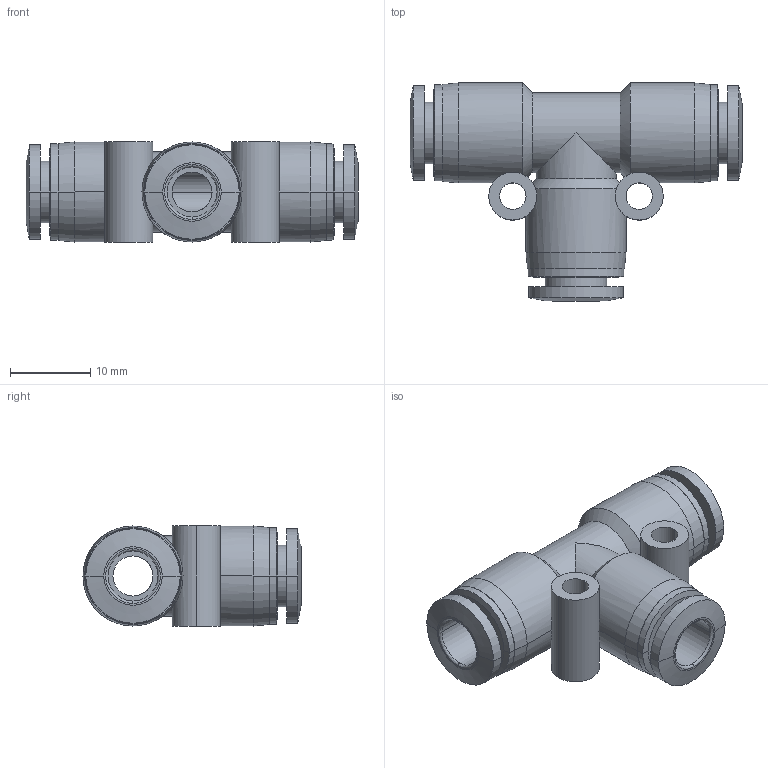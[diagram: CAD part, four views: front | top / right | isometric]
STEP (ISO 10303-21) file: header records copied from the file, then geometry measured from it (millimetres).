
FILE_DESCRIPTION (( 'STEP AP203' ), '1' );
FILE_NAME ('FT06-00.STEP', '2020-04-28T13:43:34', ( '' ), ( '' ), 'SwSTEP 2.0', 'SolidWorks 2019', '' );
FILE_SCHEMA (( 'CONFIG_CONTROL_DESIGN' ));
Length unit declared in the file: millimetre
Products named in the file (1): FT06-00
Bounding box: 41.5 x 27.25 x 12.5 mm (x, y, z)
Volume: 4755.3 mm3; surface area: 4380.3 mm2
Topology: 1 solids, 1 shells, 95 faces, 226 edges, 142 vertices
Faces by surface type: cylinder 46, cone 24, plane 19, bspline 6
Entity records: 3539 total; most frequent: CARTESIAN_POINT 1238, DIRECTION 490, ORIENTED_EDGE 452, EDGE_CURVE 226, AXIS2_PLACEMENT_3D 208, VERTEX_POINT 142, CIRCLE 118, EDGE_LOOP 116
